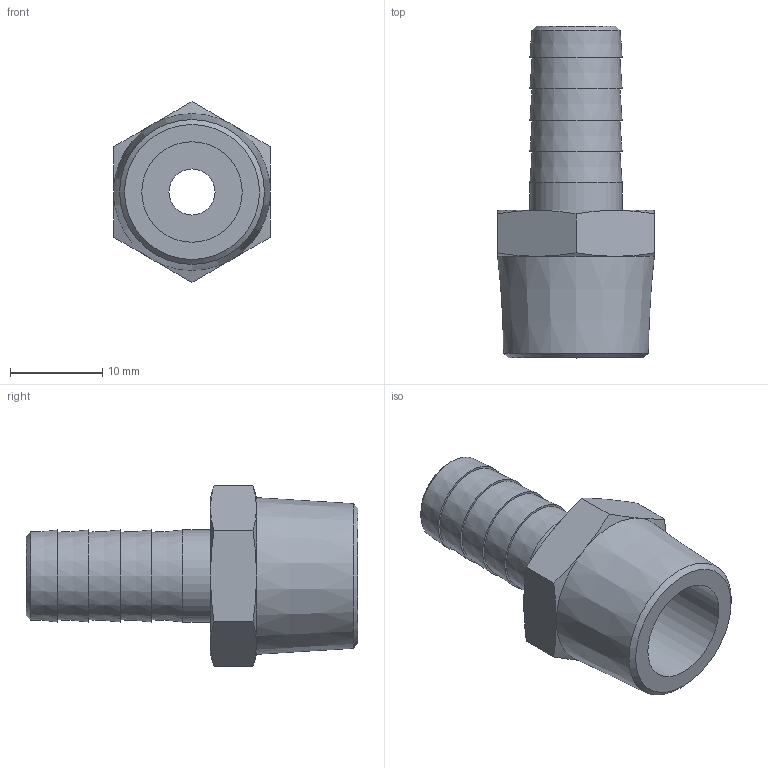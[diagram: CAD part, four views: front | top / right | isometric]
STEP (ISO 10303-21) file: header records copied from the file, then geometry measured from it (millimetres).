
FILE_DESCRIPTION(/* description */ (''),/* implementation_level */ '2;1');
FILE_NAME(/* name */ 'BXH09 10B3 00.stp',/* time_stamp */ '2026-06-22T10:57:41+02:00',/* author */ ('freju'),/* organization */ (''),/* preprocessor_version */ 'ST-DEVELOPER v20.1',/* originating_system */ 'Autodesk Inventor 2026',/* authorisation */ '');
FILE_SCHEMA (('AUTOMOTIVE_DESIGN { 1 0 10303 214 3 1 1 }'));
Length unit declared in the file: millimetre
Products named in the file (1): BXH09 10B3 00
Bounding box: 17 x 36 x 19.63 mm (x, y, z)
Volume: 3419.5 mm3; surface area: 2686.1 mm2
Topology: 1 solids, 1 shells, 37 faces, 74 edges, 45 vertices
Faces by surface type: cone 20, plane 14, cylinder 3
Full cylindrical faces by diameter (mm): 5 x1, 10 x1, 10.9 x1
Entity records: 980 total; most frequent: CARTESIAN_POINT 205, DIRECTION 159, ORIENTED_EDGE 148, EDGE_CURVE 74, AXIS2_PLACEMENT_3D 71, EDGE_LOOP 45, VERTEX_POINT 45, FACE_OUTER_BOUND 37
